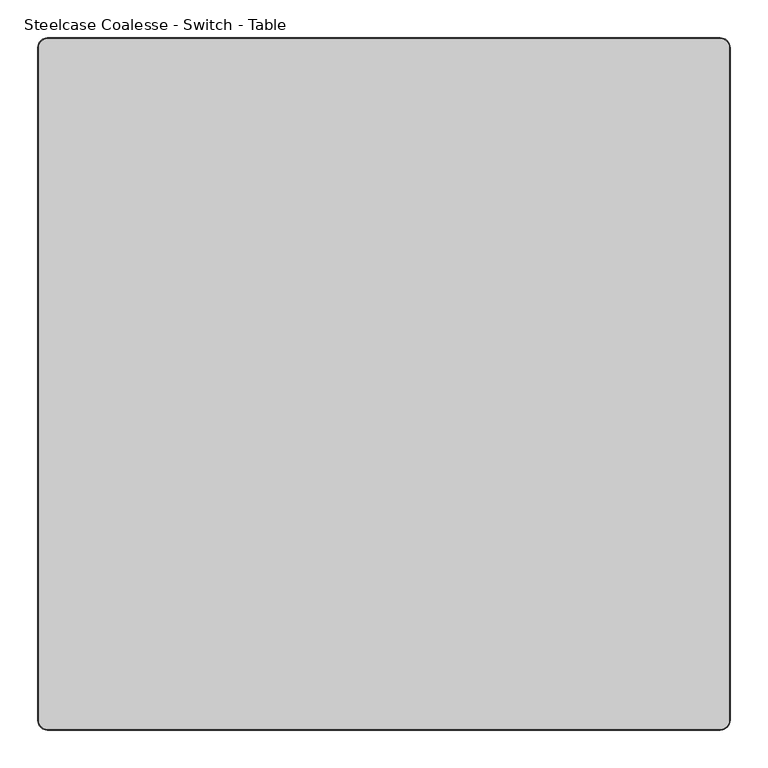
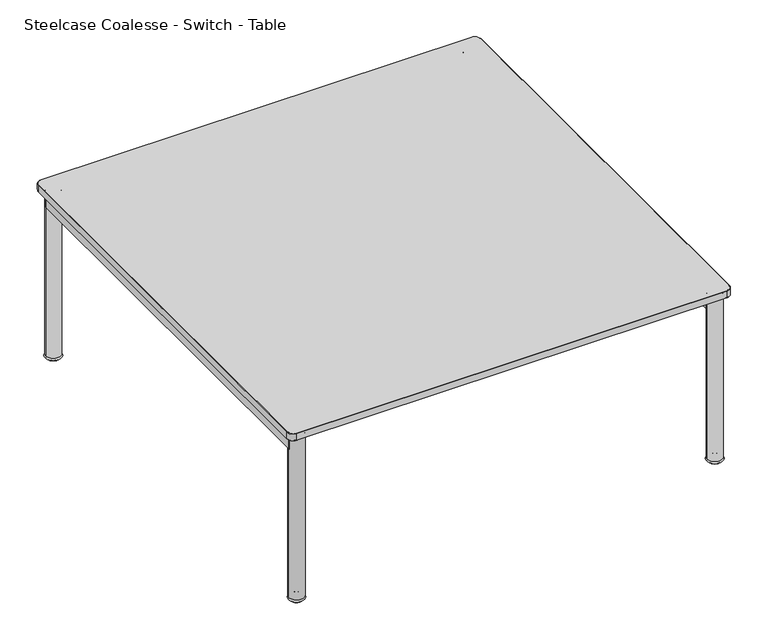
"""IFC4 building model written with IfcOpenShell, lengths in millimetres: furniture geometry, Steelcase Coalesse - Switch - Table : 36D x 36W."""

from ifc_helpers import new_model, si_unit, point, frame, frame_2d, origin, place, context, project, spatial, polyline, circle_curve, ellipse_curve, trimmed, segment, composite_curve, outline, extrude, source, transform, mapped, element, save
from ifc_brep_helpers import plane_surface, cylinder_surface, revolved_surface, advanced_brep


def steelcase_coalesse_switch_table_367d858f(model_context):
    return source(origin(), model_context, "Body", "SolidModel", [
        advanced_brep(
        [(12.4295179, -914.4, 377.2369545), (0.0, -901.9704821, 377.2369545), (0.0, -901.9704821, 363.6309536), (12.4295179, -914.4, 363.6309536), (901.5830835, -914.4, 363.6309536), (901.5830835, -914.4, 377.2369545), (914.4, -901.5830835, 363.6309536), (914.4, -901.5830835, 377.2369545), (914.4, -12.7743097, 363.6309536), (914.4, -12.7743097, 377.2369545), (901.6256903, 0.0, 363.6309536), (901.6256903, 0.0, 377.2369545), (12.5332952, 0.0, 363.6309536), (12.5332952, 0.0, 377.2369545), (0.0, -12.5332952, 363.6309536), (0.0, -12.5332952, 377.2369545), (1.1384964, -901.9704821, 378.3754509), (12.4295179, -913.2615036, 378.3754509), (901.5830835, -913.2615036, 378.3754509), (913.2615036, -901.5830835, 378.3754509), (913.2615036, -12.7743097, 378.3754509), (901.6256903, -1.1384964, 378.3754509), (12.5332952, -1.1384964, 378.3754509), (1.1384964, -12.5332952, 378.3754509), (12.4295179, -913.2615036, 362.4924572), (1.1384964, -901.9704821, 362.4924572), (1.1384964, -12.5332952, 362.4924572), (12.5332952, -1.1384964, 362.4924572), (901.6256903, -1.1384964, 362.4924572), (913.2615036, -12.7743097, 362.4924572), (913.2615036, -901.5830835, 362.4924572), (901.5830835, -913.2615036, 362.4924572)],
        [
            (0, 1, circle_curve(frame((12.4295179, -901.9704821, 377.2369545), z_axis=(0.0, 0.0, -1.0), x_axis=(-1.0, 0.0, 0.0)), 12.4295179)),
            (1, 2),
            (2, 3, circle_curve(frame((12.4295179, -901.9704821, 363.6309536), z_axis=(0.0, 0.0, 1.0), x_axis=(-1.0, 0.0, 0.0)), 12.4295179)),
            (3, 0),
            (3, 4),
            (4, 5),
            (5, 0),
            (4, 6, circle_curve(frame((901.5830835, -901.5830835, 363.6309536), z_axis=(0.0, 0.0, 1.0), x_axis=(0.0, -1.0, 0.0)), 12.8169165)),
            (6, 7),
            (7, 5, circle_curve(frame((901.5830835, -901.5830835, 377.2369545), z_axis=(0.0, 0.0, -1.0), x_axis=(0.0, -1.0, 0.0)), 12.8169165)),
            (6, 8),
            (8, 9),
            (9, 7),
            (8, 10, circle_curve(frame((901.6256903, -12.7743097, 363.6309536), z_axis=(0.0, 0.0, 1.0), x_axis=(1.0, 0.0, 0.0)), 12.7743097)),
            (10, 11),
            (11, 9, circle_curve(frame((901.6256903, -12.7743097, 377.2369545), z_axis=(0.0, 0.0, -1.0), x_axis=(1.0, 0.0, 0.0)), 12.7743097)),
            (10, 12),
            (12, 13),
            (13, 11),
            (12, 14, circle_curve(frame((12.5332952, -12.5332952, 363.6309536), z_axis=(0.0, 0.0, 1.0), x_axis=(0.0, 1.0, 0.0)), 12.5332952)),
            (14, 15),
            (15, 13, circle_curve(frame((12.5332952, -12.5332952, 377.2369545), z_axis=(0.0, 0.0, -1.0), x_axis=(0.0, 1.0, 0.0)), 12.5332952)),
            (1, 15),
            (14, 2),
            (16, 17, circle_curve(frame((12.4295179, -901.9704821, 378.3754509), z_axis=(0.0, 0.0, 1.0), x_axis=(-1.0, 0.0, 0.0)), 11.2910215)),
            (17, 18),
            (18, 19, circle_curve(frame((901.5830835, -901.5830835, 378.3754509), z_axis=(0.0, 0.0, 1.0), x_axis=(0.0, -1.0, 0.0)), 11.6784201)),
            (19, 20),
            (20, 21, circle_curve(frame((901.6256903, -12.7743097, 378.3754509), z_axis=(0.0, 0.0, 1.0), x_axis=(1.0, 0.0, 0.0)), 11.6358133)),
            (21, 22),
            (22, 23, circle_curve(frame((12.5332952, -12.5332952, 378.3754509), z_axis=(0.0, 0.0, 1.0), x_axis=(0.0, 1.0, 0.0)), 11.3947988)),
            (23, 16),
            (24, 25, circle_curve(frame((12.4295179, -901.9704821, 362.4924572), z_axis=(0.0, 0.0, -1.0), x_axis=(-1.0, 0.0, 0.0)), 11.2910215)),
            (25, 26),
            (26, 27, circle_curve(frame((12.5332952, -12.5332952, 362.4924572), z_axis=(0.0, 0.0, -1.0), x_axis=(0.0, 1.0, 0.0)), 11.3947988)),
            (27, 28),
            (28, 29, circle_curve(frame((901.6256903, -12.7743097, 362.4924572), z_axis=(0.0, 0.0, -1.0), x_axis=(1.0, 0.0, 0.0)), 11.6358133)),
            (29, 30),
            (30, 31, circle_curve(frame((901.5830835, -901.5830835, 362.4924572), z_axis=(0.0, 0.0, -1.0), x_axis=(0.0, -1.0, 0.0)), 11.6784201)),
            (31, 24),
            (2, 25),
            (24, 3),
            (0, 17),
            (16, 1),
            (31, 4),
            (5, 18),
            (30, 6),
            (7, 19),
            (29, 8),
            (9, 20),
            (28, 10),
            (11, 21),
            (27, 12),
            (13, 22),
            (26, 14),
            (15, 23),
        ],
        [
            cylinder_surface(frame((12.4295179, -901.9704821, 0.0), z_axis=(0.0, 0.0, 1.0), x_axis=(-1.0, 0.0, 0.0)), 12.4295179),
            plane_surface(frame((12.4295179, -914.4, 363.6309536), z_axis=(0.0, -1.0, 0.0), x_axis=(1.0, 0.0, 0.0))),
            cylinder_surface(frame((901.5830835, -901.5830835, 0.0), z_axis=(0.0, 0.0, 1.0), x_axis=(0.0, -1.0, 0.0)), 12.8169165),
            plane_surface(frame((914.4, -901.5830835, 363.6309536), z_axis=(1.0, 0.0, 0.0), x_axis=(0.0, 1.0, 0.0))),
            cylinder_surface(frame((901.6256903, -12.7743097, 0.0), z_axis=(0.0, 0.0, 1.0), x_axis=(1.0, 0.0, 0.0)), 12.7743097),
            plane_surface(frame((901.6256903, 0.0, 363.6309536), z_axis=(0.0, 1.0, 0.0), x_axis=(-1.0, 0.0, 0.0))),
            cylinder_surface(frame((12.5332952, -12.5332952, 0.0), z_axis=(0.0, 0.0, 1.0), x_axis=(0.0, 1.0, 0.0)), 12.5332952),
            plane_surface(frame((0.0, -12.5332952, 363.6309536), z_axis=(-1.0, 0.0, 0.0), x_axis=(0.0, -1.0, 0.0))),
            plane_surface(frame((23.7205393, -901.9704821, 378.3754509), z_axis=(0.0, 0.0, 1.0), x_axis=(0.0, 1.0, 0.0))),
            plane_surface(frame((23.7205393, -901.9704821, 362.4924572), z_axis=(0.0, 0.0, -1.0), x_axis=(0.0, -1.0, 0.0))),
            revolved_surface(polyline([(1.1384964, -901.9704821, 362.4924572), (0.0, -901.9704821, 363.6309536)]), (12.4295179, -901.9704821, 0.0), (0.0, 0.0, 1.0)),
            revolved_surface(polyline([(0.0, -901.9704821, 377.2369545), (1.1384964, -901.9704821, 378.3754509)]), (12.4295179, -901.9704821, 0.0), (0.0, 0.0, 1.0)),
            plane_surface(frame((12.4295179, -913.2615036, 362.4924572), z_axis=(0.0, -0.7071067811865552, -0.7071067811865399), x_axis=(1.0, 0.0, 0.0))),
            plane_surface(frame((12.4295179, -914.4, 377.2369545), z_axis=(0.0, -0.7071067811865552, 0.7071067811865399), x_axis=(1.0, 0.0, 0.0))),
            revolved_surface(polyline([(901.5830835, -913.2615036, 362.4924572), (901.5830835, -914.4, 363.6309536)]), (901.5830835, -901.5830835, 0.0), (0.0, 0.0, 1.0)),
            revolved_surface(polyline([(901.5830835, -914.4, 377.2369545), (901.5830835, -913.2615036, 378.3754509)]), (901.5830835, -901.5830835, 0.0), (0.0, 0.0, 1.0)),
            plane_surface(frame((913.2615036, -901.5830835, 362.4924572), z_axis=(0.7071067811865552, 0.0, -0.7071067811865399), x_axis=(0.0, 1.0, 0.0))),
            plane_surface(frame((914.4, -901.5830835, 377.2369545), z_axis=(0.7071067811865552, 0.0, 0.7071067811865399), x_axis=(0.0, 1.0, 0.0))),
            revolved_surface(polyline([(913.2615036, -12.7743097, 362.4924572), (914.4, -12.7743097, 363.6309536)]), (901.6256903, -12.7743097, 0.0), (0.0, 0.0, 1.0)),
            revolved_surface(polyline([(914.4, -12.7743097, 377.2369545), (913.2615036, -12.7743097, 378.3754509)]), (901.6256903, -12.7743097, 0.0), (0.0, 0.0, 1.0)),
            plane_surface(frame((901.6256903, -1.1384964, 362.4924572), z_axis=(0.0, 0.7071067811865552, -0.7071067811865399), x_axis=(-1.0, 0.0, 0.0))),
            plane_surface(frame((901.6256903, 0.0, 377.2369545), z_axis=(0.0, 0.7071067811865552, 0.7071067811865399), x_axis=(-1.0, 0.0, 0.0))),
            revolved_surface(polyline([(12.5332952, -1.1384964, 362.4924572), (12.5332952, 0.0, 363.6309536)]), (12.5332952, -12.5332952, 0.0), (0.0, 0.0, 1.0)),
            revolved_surface(polyline([(12.5332952, 0.0, 377.2369545), (12.5332952, -1.1384964, 378.3754509)]), (12.5332952, -12.5332952, 0.0), (0.0, 0.0, 1.0)),
            plane_surface(frame((1.1384964, -12.5332952, 362.4924572), z_axis=(-0.7071067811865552, 0.0, -0.7071067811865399), x_axis=(0.0, -1.0, 0.0))),
            plane_surface(frame((0.0, -12.5332952, 377.2369545), z_axis=(-0.7071067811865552, 0.0, 0.7071067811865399), x_axis=(0.0, -1.0, 0.0))),
        ],
        [
            (0, [[1, 2, 3, 4]]),
            (1, [[-4, 5, 6, 7]]),
            (2, [[-6, 8, 9, 10]]),
            (3, [[-9, 11, 12, 13]]),
            (4, [[-12, 14, 15, 16]]),
            (5, [[-15, 17, 18, 19]]),
            (6, [[-18, 20, 21, 22]]),
            (7, [[-2, 23, -21, 24]]),
            (8, [[25, 26, 27, 28, 29, 30, 31, 32]]),
            (9, [[33, 34, 35, 36, 37, 38, 39, 40]]),
            (10, [[-3, 41, -33, 42]]),
            (11, [[-1, 43, -25, 44]]),
            (12, [[-5, -42, -40, 45]]),
            (13, [[-7, 46, -26, -43]]),
            (14, [[-8, -45, -39, 47]]),
            (15, [[-10, 48, -27, -46]]),
            (16, [[-11, -47, -38, 49]]),
            (17, [[-13, 50, -28, -48]]),
            (18, [[-14, -49, -37, 51]]),
            (19, [[-16, 52, -29, -50]]),
            (20, [[-17, -51, -36, 53]]),
            (21, [[-19, 54, -30, -52]]),
            (22, [[-20, -53, -35, 55]]),
            (23, [[-22, 56, -31, -54]]),
            (24, [[-24, -55, -34, -41]]),
            (25, [[-23, -44, -32, -56]]),
        ],
    ),
        advanced_brep(
        [(877.245347, -892.2943726, 362.9951951), (901.2882462, -892.2943726, 362.9951951), (889.2667966, -892.2943726, 362.9951951), (873.7412492, -892.2943726, 359.4910973), (904.792344, -892.2943726, 359.4910973), (873.7412492, -892.2943726, 7.4855095), (904.792344, -892.2943726, 7.4855095), (878.0378445, -892.2943726, 7.4855095), (900.4957487, -892.2943726, 7.4855095), (872.4679682, -892.2943726, 3.6067942), (906.065625, -892.2943726, 3.6067942), (876.3419211, -892.2943726, 0.0), (902.1916721, -892.2943726, 0.0), (889.2667966, -892.2943726, 0.0)],
        [
            (0, 1, circle_curve(frame((889.2667966, -892.2943726, 362.9951951), z_axis=(0.0, 0.0, 1.0), x_axis=(1.0, 0.0, 0.0)), 12.0214496)),
            (1, 2),
            (2, 0),
            (1, 0, circle_curve(frame((889.2667966, -892.2943726, 362.9951951), z_axis=(0.0, 0.0, 1.0), x_axis=(1.0, 0.0, 0.0)), 12.0214496)),
            (3, 4, circle_curve(frame((889.2667966, -892.2943726, 359.4910973), z_axis=(0.0, 0.0, 1.0), x_axis=(1.0, 0.0, 0.0)), 15.5255474)),
            (4, 1, circle_curve(frame((901.2882462, -892.2943726, 359.4910973), z_axis=(0.0, -1.0, 0.0), x_axis=(1.0, 0.0, 0.0)), 3.5040978)),
            (0, 3, circle_curve(frame((877.245347, -892.2943726, 359.4910973), z_axis=(0.0, -1.0, 0.0), x_axis=(-1.0, 0.0, 0.0)), 3.5040978)),
            (4, 3, circle_curve(frame((889.2667966, -892.2943726, 359.4910973), z_axis=(0.0, 0.0, 1.0), x_axis=(1.0, 0.0, 0.0)), 15.5255474)),
            (5, 6, circle_curve(frame((889.2667966, -892.2943726, 7.4855095), z_axis=(0.0, 0.0, 1.0), x_axis=(1.0, 0.0, 0.0)), 15.5255474)),
            (6, 4),
            (3, 5),
            (6, 5, circle_curve(frame((889.2667966, -892.2943726, 7.4855095), z_axis=(0.0, 0.0, 1.0), x_axis=(1.0, 0.0, 0.0)), 15.5255474)),
            (7, 8, circle_curve(frame((889.2667966, -892.2943726, 7.4855095), z_axis=(0.0, 0.0, 1.0), x_axis=(1.0, 0.0, 0.0)), 11.2289521)),
            (8, 6),
            (5, 7),
            (8, 7, circle_curve(frame((889.2667966, -892.2943726, 7.4855095), z_axis=(0.0, 0.0, 1.0), x_axis=(1.0, 0.0, 0.0)), 11.2289521)),
            (9, 10, circle_curve(frame((889.2667966, -892.2943726, 3.6067942), z_axis=(0.0, 0.0, 1.0), x_axis=(1.0, 0.0, 0.0)), 16.7988284)),
            (10, 8),
            (7, 9),
            (10, 9, circle_curve(frame((889.2667966, -892.2943726, 3.6067942), z_axis=(0.0, 0.0, 1.0), x_axis=(1.0, 0.0, 0.0)), 16.7988284)),
            (11, 12, circle_curve(frame((889.2667966, -892.2943726, 0.0), z_axis=(0.0, 0.0, 1.0), x_axis=(1.0, 0.0, 0.0)), 12.9248755)),
            (12, 10),
            (9, 11),
            (12, 11, circle_curve(frame((889.2667966, -892.2943726, 0.0), z_axis=(0.0, 0.0, 1.0), x_axis=(1.0, 0.0, 0.0)), 12.9248755)),
            (13, 12),
            (11, 13),
        ],
        [
            plane_surface(frame((889.2667966, -892.2943726, 362.9951951), z_axis=(0.0, 0.0, 1.0), x_axis=(1.0, 0.0, 0.0))),
            revolved_surface(trimmed(ellipse_curve(frame((901.2882462, -892.2943726, 359.4910973), z_axis=(0.0, 1.0, 0.0), x_axis=(1.0, 0.0, 0.0)), 3.5040978, 3.5040978), [point((901.2882462, -892.2943726, 362.9951951))], [point((904.792344, -892.2943726, 359.4910973))], True, "CARTESIAN"), (889.2667966, -892.2943726, 362.9951951), (0.0, 0.0, -1.0)),
            cylinder_surface(frame((889.2667966, -892.2943726, 362.9951951), z_axis=(0.0, 0.0, -1.0), x_axis=(1.0, 0.0, 0.0)), 15.5255474),
            plane_surface(frame((889.2667966, -892.2943726, 7.4855095), z_axis=(0.0, 0.0, -1.0), x_axis=(1.0, 0.0, 0.0))),
            revolved_surface(polyline([(900.4957487, -892.2943726, 7.4855095), (906.065625, -892.2943726, 3.6067942)]), (889.2667966, -892.2943726, 362.9951951), (0.0, 0.0, -1.0)),
            revolved_surface(polyline([(906.065625, -892.2943726, 3.6067942), (902.1916721, -892.2943726, 0.0)]), (889.2667966, -892.2943726, 362.9951951), (0.0, 0.0, -1.0)),
            plane_surface(frame((889.2667966, -892.2943726, 0.0), z_axis=(0.0, 0.0, -1.0), x_axis=(1.0, 0.0, 0.0))),
        ],
        [
            (0, [[1, 2, 3]]),
            (0, [[4, -3, -2]]),
            (1, [[5, 6, -1, 7]]),
            (1, [[8, -7, -4, -6]]),
            (2, [[9, 10, -5, 11]]),
            (2, [[12, -11, -8, -10]]),
            (3, [[13, 14, -9, 15]]),
            (3, [[16, -15, -12, -14]]),
            (4, [[17, 18, -13, 19]]),
            (4, [[20, -19, -16, -18]]),
            (5, [[21, 22, -17, 23]]),
            (5, [[24, -23, -20, -22]]),
            (6, [[25, -21, 26]]),
            (6, [[-26, -24, -25]]),
        ],
    ),
        advanced_brep(
        [(25.1332034, -892.2943726, 362.9951951), (13.1117538, -892.2943726, 362.9951951), (37.154653, -892.2943726, 362.9951951), (9.607656, -892.2943726, 359.4910973), (40.6587508, -892.2943726, 359.4910973), (9.607656, -892.2943726, 7.4855095), (40.6587508, -892.2943726, 7.4855095), (13.9042513, -892.2943726, 7.4855095), (36.3621555, -892.2943726, 7.4855095), (8.334375, -892.2943726, 3.6067942), (41.9320318, -892.2943726, 3.6067942), (12.2083279, -892.2943726, 0.0), (38.0580789, -892.2943726, 0.0), (25.1332034, -892.2943726, 0.0)],
        [
            (0, 1),
            (1, 2, circle_curve(frame((25.1332034, -892.2943726, 362.9951951), z_axis=(0.0, 0.0, 1.0), x_axis=(-1.0, 0.0, 0.0)), 12.0214496)),
            (2, 0),
            (2, 1, circle_curve(frame((25.1332034, -892.2943726, 362.9951951), z_axis=(0.0, 0.0, 1.0), x_axis=(-1.0, 0.0, 0.0)), 12.0214496)),
            (1, 3, circle_curve(frame((13.1117538, -892.2943726, 359.4910973), z_axis=(0.0, -1.0, 0.0), x_axis=(1.0, 0.0, 0.0)), 3.5040978)),
            (3, 4, circle_curve(frame((25.1332034, -892.2943726, 359.4910973), z_axis=(0.0, 0.0, 1.0), x_axis=(-1.0, 0.0, 0.0)), 15.5255474)),
            (4, 2, circle_curve(frame((37.154653, -892.2943726, 359.4910973), z_axis=(0.0, -1.0, 0.0), x_axis=(-1.0, 0.0, 0.0)), 3.5040978)),
            (4, 3, circle_curve(frame((25.1332034, -892.2943726, 359.4910973), z_axis=(0.0, 0.0, 1.0), x_axis=(-1.0, 0.0, 0.0)), 15.5255474)),
            (3, 5),
            (5, 6, circle_curve(frame((25.1332034, -892.2943726, 7.4855095), z_axis=(0.0, 0.0, 1.0), x_axis=(-1.0, 0.0, 0.0)), 15.5255474)),
            (6, 4),
            (6, 5, circle_curve(frame((25.1332034, -892.2943726, 7.4855095), z_axis=(0.0, 0.0, 1.0), x_axis=(-1.0, 0.0, 0.0)), 15.5255474)),
            (5, 7),
            (7, 8, circle_curve(frame((25.1332034, -892.2943726, 7.4855095), z_axis=(0.0, 0.0, 1.0), x_axis=(-1.0, 0.0, 0.0)), 11.2289521)),
            (8, 6),
            (8, 7, circle_curve(frame((25.1332034, -892.2943726, 7.4855095), z_axis=(0.0, 0.0, 1.0), x_axis=(-1.0, 0.0, 0.0)), 11.2289521)),
            (7, 9),
            (9, 10, circle_curve(frame((25.1332034, -892.2943726, 3.6067942), z_axis=(0.0, 0.0, 1.0), x_axis=(-1.0, 0.0, 0.0)), 16.7988284)),
            (10, 8),
            (10, 9, circle_curve(frame((25.1332034, -892.2943726, 3.6067942), z_axis=(0.0, 0.0, 1.0), x_axis=(-1.0, 0.0, 0.0)), 16.7988284)),
            (9, 11),
            (11, 12, circle_curve(frame((25.1332034, -892.2943726, 0.0), z_axis=(0.0, 0.0, 1.0), x_axis=(-1.0, 0.0, 0.0)), 12.9248755)),
            (12, 10),
            (12, 11, circle_curve(frame((25.1332034, -892.2943726, 0.0), z_axis=(0.0, 0.0, 1.0), x_axis=(-1.0, 0.0, 0.0)), 12.9248755)),
            (11, 13),
            (13, 12),
        ],
        [
            plane_surface(frame((25.1332034, -892.2943726, 362.9951951), z_axis=(0.0, 0.0, 1.0), x_axis=(-1.0, 0.0, 0.0))),
            revolved_surface(trimmed(ellipse_curve(frame((13.1117538, -892.2943726, 359.4910973), z_axis=(0.0, 1.0, 0.0), x_axis=(1.0, 0.0, 0.0)), 3.5040978, 3.5040978), [point((9.607656, -892.2943726, 359.4910973))], [point((13.1117538, -892.2943726, 362.9951951))], True, "CARTESIAN"), (25.1332034, -892.2943726, 362.9951951), (0.0, 0.0, 1.0)),
            cylinder_surface(frame((25.1332034, -892.2943726, 362.9951951), z_axis=(0.0, 0.0, 1.0), x_axis=(-1.0, 0.0, 0.0)), 15.5255474),
            plane_surface(frame((25.1332034, -892.2943726, 7.4855095), z_axis=(0.0, 0.0, -1.0), x_axis=(-1.0, 0.0, 0.0))),
            revolved_surface(polyline([(8.334375, -892.2943726, 3.6067942), (13.9042513, -892.2943726, 7.4855095)]), (25.1332034, -892.2943726, 362.9951951), (0.0, 0.0, 1.0)),
            revolved_surface(polyline([(12.2083279, -892.2943726, 0.0), (8.334375, -892.2943726, 3.6067942)]), (25.1332034, -892.2943726, 362.9951951), (0.0, 0.0, 1.0)),
            plane_surface(frame((25.1332034, -892.2943726, 0.0), z_axis=(0.0, 0.0, -1.0), x_axis=(-1.0, 0.0, 0.0))),
        ],
        [
            (0, [[1, 2, 3]]),
            (0, [[-3, 4, -1]]),
            (1, [[-2, 5, 6, 7]]),
            (1, [[-4, -7, 8, -5]]),
            (2, [[-6, 9, 10, 11]]),
            (2, [[-8, -11, 12, -9]]),
            (3, [[-10, 13, 14, 15]]),
            (3, [[-12, -15, 16, -13]]),
            (4, [[-14, 17, 18, 19]]),
            (4, [[-16, -19, 20, -17]]),
            (5, [[-18, 21, 22, 23]]),
            (5, [[-20, -23, 24, -21]]),
            (6, [[-22, 25, 26]]),
            (6, [[-24, -26, -25]]),
        ],
    ),
        advanced_brep(
        [(889.2667966, -22.1056274, 362.9951951), (901.2882462, -22.1056274, 362.9951951), (877.245347, -22.1056274, 362.9951951), (904.792344, -22.1056274, 359.4910973), (873.7412492, -22.1056274, 359.4910973), (904.792344, -22.1056274, 7.4855095), (873.7412492, -22.1056274, 7.4855095), (900.4957487, -22.1056274, 7.4855095), (878.0378445, -22.1056274, 7.4855095), (906.065625, -22.1056274, 3.6067942), (872.4679682, -22.1056274, 3.6067942), (902.1916721, -22.1056274, 0.0), (876.3419211, -22.1056274, 0.0), (889.2667966, -22.1056274, 0.0)],
        [
            (0, 1),
            (1, 2, circle_curve(frame((889.2667966, -22.1056274, 362.9951951), z_axis=(0.0, 0.0, 1.0), x_axis=(1.0, 0.0, 0.0)), 12.0214496)),
            (2, 0),
            (2, 1, circle_curve(frame((889.2667966, -22.1056274, 362.9951951), z_axis=(0.0, 0.0, 1.0), x_axis=(1.0, 0.0, 0.0)), 12.0214496)),
            (1, 3, circle_curve(frame((901.2882462, -22.1056274, 359.4910973), z_axis=(0.0, 1.0, 0.0), x_axis=(-1.0, 0.0, 0.0)), 3.5040978)),
            (3, 4, circle_curve(frame((889.2667966, -22.1056274, 359.4910973), z_axis=(0.0, 0.0, 1.0), x_axis=(1.0, 0.0, 0.0)), 15.5255474)),
            (4, 2, circle_curve(frame((877.245347, -22.1056274, 359.4910973), z_axis=(0.0, 1.0, 0.0), x_axis=(1.0, 0.0, 0.0)), 3.5040978)),
            (4, 3, circle_curve(frame((889.2667966, -22.1056274, 359.4910973), z_axis=(0.0, 0.0, 1.0), x_axis=(1.0, 0.0, 0.0)), 15.5255474)),
            (3, 5),
            (5, 6, circle_curve(frame((889.2667966, -22.1056274, 7.4855095), z_axis=(0.0, 0.0, 1.0), x_axis=(1.0, 0.0, 0.0)), 15.5255474)),
            (6, 4),
            (6, 5, circle_curve(frame((889.2667966, -22.1056274, 7.4855095), z_axis=(0.0, 0.0, 1.0), x_axis=(1.0, 0.0, 0.0)), 15.5255474)),
            (5, 7),
            (7, 8, circle_curve(frame((889.2667966, -22.1056274, 7.4855095), z_axis=(0.0, 0.0, 1.0), x_axis=(1.0, 0.0, 0.0)), 11.2289521)),
            (8, 6),
            (8, 7, circle_curve(frame((889.2667966, -22.1056274, 7.4855095), z_axis=(0.0, 0.0, 1.0), x_axis=(1.0, 0.0, 0.0)), 11.2289521)),
            (7, 9),
            (9, 10, circle_curve(frame((889.2667966, -22.1056274, 3.6067942), z_axis=(0.0, 0.0, 1.0), x_axis=(1.0, 0.0, 0.0)), 16.7988284)),
            (10, 8),
            (10, 9, circle_curve(frame((889.2667966, -22.1056274, 3.6067942), z_axis=(0.0, 0.0, 1.0), x_axis=(1.0, 0.0, 0.0)), 16.7988284)),
            (9, 11),
            (11, 12, circle_curve(frame((889.2667966, -22.1056274, 0.0), z_axis=(0.0, 0.0, 1.0), x_axis=(1.0, 0.0, 0.0)), 12.9248755)),
            (12, 10),
            (12, 11, circle_curve(frame((889.2667966, -22.1056274, 0.0), z_axis=(0.0, 0.0, 1.0), x_axis=(1.0, 0.0, 0.0)), 12.9248755)),
            (11, 13),
            (13, 12),
        ],
        [
            plane_surface(frame((889.2667966, -22.1056274, 362.9951951), z_axis=(0.0, 0.0, 1.0), x_axis=(1.0, 0.0, 0.0))),
            revolved_surface(trimmed(ellipse_curve(frame((901.2882462, -22.1056274, 359.4910973), z_axis=(0.0, -1.0, 0.0), x_axis=(-1.0, 0.0, 0.0)), 3.5040978, 3.5040978), [point((904.792344, -22.1056274, 359.4910973))], [point((901.2882462, -22.1056274, 362.9951951))], True, "CARTESIAN"), (889.2667966, -22.1056274, 362.9951951), (0.0, 0.0, 1.0)),
            cylinder_surface(frame((889.2667966, -22.1056274, 362.9951951), z_axis=(0.0, 0.0, 1.0), x_axis=(1.0, 0.0, 0.0)), 15.5255474),
            plane_surface(frame((889.2667966, -22.1056274, 7.4855095), z_axis=(0.0, 0.0, -1.0), x_axis=(1.0, 0.0, 0.0))),
            revolved_surface(polyline([(906.065625, -22.1056274, 3.6067942), (900.4957487, -22.1056274, 7.4855095)]), (889.2667966, -22.1056274, 362.9951951), (0.0, 0.0, 1.0)),
            revolved_surface(polyline([(902.1916721, -22.1056274, 0.0), (906.065625, -22.1056274, 3.6067942)]), (889.2667966, -22.1056274, 362.9951951), (0.0, 0.0, 1.0)),
            plane_surface(frame((889.2667966, -22.1056274, 0.0), z_axis=(0.0, 0.0, -1.0), x_axis=(1.0, 0.0, 0.0))),
        ],
        [
            (0, [[1, 2, 3]]),
            (0, [[-3, 4, -1]]),
            (1, [[-2, 5, 6, 7]]),
            (1, [[-4, -7, 8, -5]]),
            (2, [[-6, 9, 10, 11]]),
            (2, [[-8, -11, 12, -9]]),
            (3, [[-10, 13, 14, 15]]),
            (3, [[-12, -15, 16, -13]]),
            (4, [[-14, 17, 18, 19]]),
            (4, [[-16, -19, 20, -17]]),
            (5, [[-18, 21, 22, 23]]),
            (5, [[-20, -23, 24, -21]]),
            (6, [[-22, 25, 26]]),
            (6, [[-24, -26, -25]]),
        ],
    ),
        advanced_brep(
        [(37.154653, -22.1056274, 362.9951951), (13.1117538, -22.1056274, 362.9951951), (25.1332034, -22.1056274, 362.9951951), (40.6587508, -22.1056274, 359.4910973), (9.607656, -22.1056274, 359.4910973), (40.6587508, -22.1056274, 7.4855095), (9.607656, -22.1056274, 7.4855095), (36.3621555, -22.1056274, 7.4855095), (13.9042513, -22.1056274, 7.4855095), (41.9320318, -22.1056274, 3.6067942), (8.334375, -22.1056274, 3.6067942), (38.0580789, -22.1056274, 0.0), (12.2083279, -22.1056274, 0.0), (25.1332034, -22.1056274, 0.0)],
        [
            (0, 1, circle_curve(frame((25.1332034, -22.1056274, 362.9951951), z_axis=(0.0, 0.0, 1.0), x_axis=(-1.0, 0.0, 0.0)), 12.0214496)),
            (1, 2),
            (2, 0),
            (1, 0, circle_curve(frame((25.1332034, -22.1056274, 362.9951951), z_axis=(0.0, 0.0, 1.0), x_axis=(-1.0, 0.0, 0.0)), 12.0214496)),
            (3, 4, circle_curve(frame((25.1332034, -22.1056274, 359.4910973), z_axis=(0.0, 0.0, 1.0), x_axis=(-1.0, 0.0, 0.0)), 15.5255474)),
            (4, 1, circle_curve(frame((13.1117538, -22.1056274, 359.4910973), z_axis=(0.0, 1.0, 0.0), x_axis=(1.0, 0.0, 0.0)), 3.5040978)),
            (0, 3, circle_curve(frame((37.154653, -22.1056274, 359.4910973), z_axis=(0.0, 1.0, 0.0), x_axis=(-1.0, 0.0, 0.0)), 3.5040978)),
            (4, 3, circle_curve(frame((25.1332034, -22.1056274, 359.4910973), z_axis=(0.0, 0.0, 1.0), x_axis=(-1.0, 0.0, 0.0)), 15.5255474)),
            (5, 6, circle_curve(frame((25.1332034, -22.1056274, 7.4855095), z_axis=(0.0, 0.0, 1.0), x_axis=(-1.0, 0.0, 0.0)), 15.5255474)),
            (6, 4),
            (3, 5),
            (6, 5, circle_curve(frame((25.1332034, -22.1056274, 7.4855095), z_axis=(0.0, 0.0, 1.0), x_axis=(-1.0, 0.0, 0.0)), 15.5255474)),
            (7, 8, circle_curve(frame((25.1332034, -22.1056274, 7.4855095), z_axis=(0.0, 0.0, 1.0), x_axis=(-1.0, 0.0, 0.0)), 11.2289521)),
            (8, 6),
            (5, 7),
            (8, 7, circle_curve(frame((25.1332034, -22.1056274, 7.4855095), z_axis=(0.0, 0.0, 1.0), x_axis=(-1.0, 0.0, 0.0)), 11.2289521)),
            (9, 10, circle_curve(frame((25.1332034, -22.1056274, 3.6067942), z_axis=(0.0, 0.0, 1.0), x_axis=(-1.0, 0.0, 0.0)), 16.7988284)),
            (10, 8),
            (7, 9),
            (10, 9, circle_curve(frame((25.1332034, -22.1056274, 3.6067942), z_axis=(0.0, 0.0, 1.0), x_axis=(-1.0, 0.0, 0.0)), 16.7988284)),
            (11, 12, circle_curve(frame((25.1332034, -22.1056274, 0.0), z_axis=(0.0, 0.0, 1.0), x_axis=(-1.0, 0.0, 0.0)), 12.9248755)),
            (12, 10),
            (9, 11),
            (12, 11, circle_curve(frame((25.1332034, -22.1056274, 0.0), z_axis=(0.0, 0.0, 1.0), x_axis=(-1.0, 0.0, 0.0)), 12.9248755)),
            (13, 12),
            (11, 13),
        ],
        [
            plane_surface(frame((25.1332034, -22.1056274, 362.9951951), z_axis=(0.0, 0.0, 1.0), x_axis=(-1.0, 0.0, 0.0))),
            revolved_surface(trimmed(ellipse_curve(frame((13.1117538, -22.1056274, 359.4910973), z_axis=(0.0, -1.0, 0.0), x_axis=(1.0, 0.0, 0.0)), 3.5040978, 3.5040978), [point((13.1117538, -22.1056274, 362.9951951))], [point((9.607656, -22.1056274, 359.4910973))], True, "CARTESIAN"), (25.1332034, -22.1056274, 362.9951951), (0.0, 0.0, -1.0)),
            cylinder_surface(frame((25.1332034, -22.1056274, 362.9951951), z_axis=(0.0, 0.0, -1.0), x_axis=(-1.0, 0.0, 0.0)), 15.5255474),
            plane_surface(frame((25.1332034, -22.1056274, 7.4855095), z_axis=(0.0, 0.0, -1.0), x_axis=(-1.0, 0.0, 0.0))),
            revolved_surface(polyline([(13.9042513, -22.1056274, 7.4855095), (8.334375, -22.1056274, 3.6067942)]), (25.1332034, -22.1056274, 362.9951951), (0.0, 0.0, -1.0)),
            revolved_surface(polyline([(8.334375, -22.1056274, 3.6067942), (12.2083279, -22.1056274, 0.0)]), (25.1332034, -22.1056274, 362.9951951), (0.0, 0.0, -1.0)),
            plane_surface(frame((25.1332034, -22.1056274, 0.0), z_axis=(0.0, 0.0, -1.0), x_axis=(-1.0, 0.0, 0.0))),
        ],
        [
            (0, [[1, 2, 3]]),
            (0, [[4, -3, -2]]),
            (1, [[5, 6, -1, 7]]),
            (1, [[8, -7, -4, -6]]),
            (2, [[9, 10, -5, 11]]),
            (2, [[12, -11, -8, -10]]),
            (3, [[13, 14, -9, 15]]),
            (3, [[16, -15, -12, -14]]),
            (4, [[17, 18, -13, 19]]),
            (4, [[20, -19, -16, -18]]),
            (5, [[21, 22, -17, 23]]),
            (5, [[24, -23, -20, -22]]),
            (6, [[25, -21, 26]]),
            (6, [[-26, -24, -25]]),
        ],
    ),
        extrude(outline(composite_curve([segment(trimmed(circle_curve(frame_2d((24.214752, -24.5419284)), 15.0271345), [point((9.1876175, -24.5419284))], [point((39.2418864, -24.5419284))], False, "CARTESIAN"), True, "CONTINUOUS"), segment(polyline([(39.2418864, -24.5419284), (39.2418864, -442.0552673), (875.1581136, -442.0552673), (875.1581136, -24.3028353)]), True, "CONTINUOUS"), segment(trimmed(circle_curve(frame_2d((890.185248, -24.3028353)), 15.0271345), [point((875.1581136, -24.3028353))], [point((905.2123825, -24.3028353))], False, "CARTESIAN"), True, "CONTINUOUS"), segment(polyline([(905.2123825, -24.3028353), (905.2123825, -890.6346188)]), True, "CONTINUOUS"), segment(trimmed(circle_curve(frame_2d((890.185248, -890.6346188)), 15.0271345), [point((905.2123825, -890.6346188))], [point((875.1581136, -890.6346188))], False, "CARTESIAN"), True, "CONTINUOUS"), segment(polyline([(875.1581136, -890.6346188), (875.1581136, -472.2177431), (39.2418864, -472.2177431), (39.2418864, -890.5115411)]), True, "CONTINUOUS"), segment(trimmed(circle_curve(frame_2d((24.214752, -890.5115411)), 15.0271345), [point((39.2418864, -890.5115411))], [point((9.1876175, -890.5115411))], False, "CARTESIAN"), True, "CONTINUOUS"), segment(polyline([(9.1876175, -890.5115411), (9.1876175, -24.5419284)]), True, "CONTINUOUS")], self_intersect=False)), frame((0.0, 0.0, 332.4399311), z_axis=(0.0, 0.0, 1.0), x_axis=(1.0, 0.0, 0.0)), (0.0, 0.0, 1.0), 30.0525261),
    ])


if __name__ == "__main__":
    model = new_model("IFC4")
    model_context = context("Model", 3, world=origin())
    ifc_project = project(units=[si_unit("LENGTHUNIT", "METRE", prefix="MILLI")], contexts=[model_context])
    site = spatial("IfcSite", under=ifc_project)
    building = spatial("IfcBuilding", under=site)
    placement = place(None, origin())
    steelcase_coalesse_switch_table_shape = steelcase_coalesse_switch_table_367d858f(model_context)
    element("IfcFurniture", 1, ObjectType="Steelcase Coalesse - Switch - Table : 36D x 36W", at=placement, inside=building, context=model_context, shape_type="MappedRepresentation", body=[
        mapped(steelcase_coalesse_switch_table_shape, transform((0.0, 0.0, 0.0), x_axis=(1.0, 0.0, 0.0), y_axis=(0.0, 1.0, 0.0), z_axis=(0.0, 0.0, 1.0))),
    ])
    save(model, "model.ifc")
